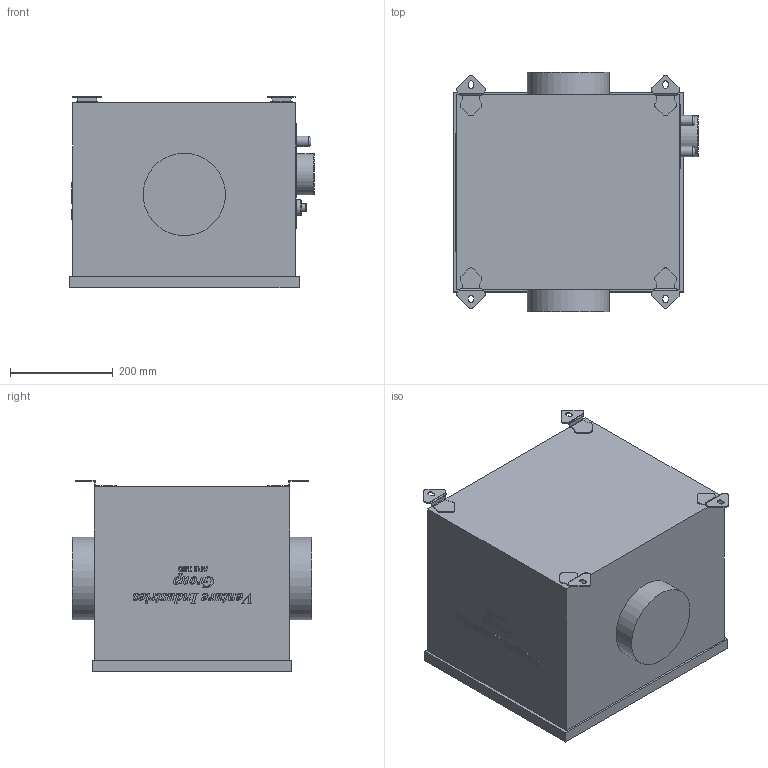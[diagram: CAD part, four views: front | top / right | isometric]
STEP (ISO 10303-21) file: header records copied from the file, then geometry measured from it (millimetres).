
FILE_DESCRIPTION(/* description */ (''),/* implementation_level */ '2;1');
FILE_NAME(/* name */ 'D:\Piotr - Dokumenty\Modele uproszczone\AFB\AFB 160\AFB_160.stp',/* time_stamp */ '2021-03-19T14:15:55+01:00',/* author */ ('Piotr.Nowotniak'),/* organization */ (''),/* preprocessor_version */ 'ST-DEVELOPER v18',/* originating_system */ 'Autodesk Inventor 2020',/* authorisation */ '');
FILE_SCHEMA (('AUTOMOTIVE_DESIGN { 1 0 10303 214 3 1 1 }'));
Length unit declared in the file: millimetre
Products named in the file (1): AFB_160
Bounding box: 476 x 465.8 x 372.46 mm (x, y, z)
Volume: 61447904.4 mm3; surface area: 1008847.9 mm2
Topology: 1 solids, 1 shells, 764 faces, 2107 edges, 1398 vertices
Faces by surface type: bspline 365, plane 311, cylinder 83, torus 5
Full cylindrical faces by diameter (mm): 15 x1, 20.2 x2, 30 x1, 80 x1, 160 x2
Entity records: 30424 total; most frequent: CARTESIAN_POINT 13014, ORIENTED_EDGE 4214, DIRECTION 2338, EDGE_CURVE 2107, VERTEX_POINT 1398, LINE 1216, VECTOR 1216, EDGE_LOOP 825
